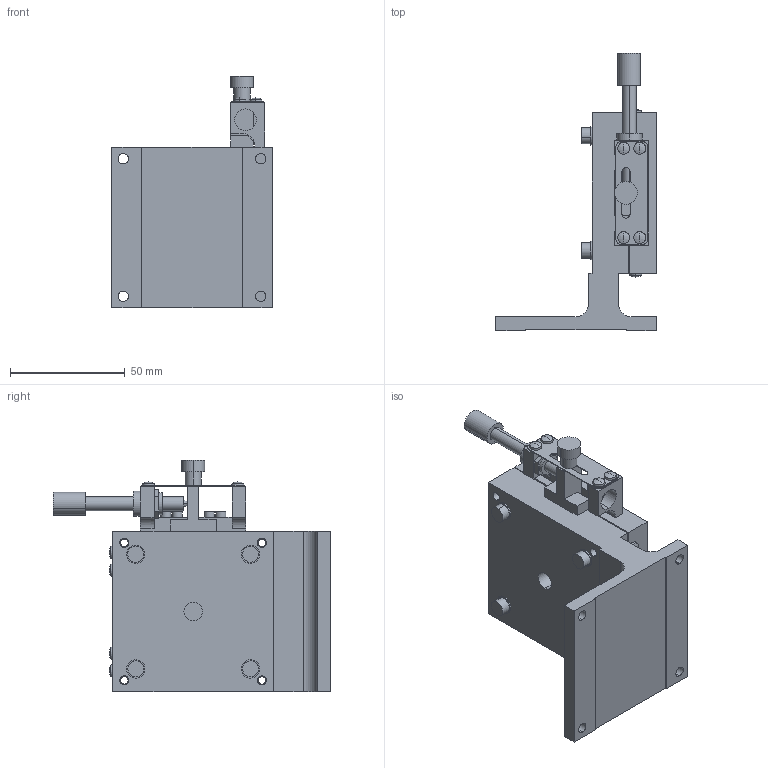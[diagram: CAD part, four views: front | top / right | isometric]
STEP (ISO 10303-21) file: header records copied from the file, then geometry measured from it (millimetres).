
FILE_DESCRIPTION (( 'STEP AP214' ), '1' );
FILE_NAME ('LZ‐7041‐SR6‐2.STEP', '2007-08-29T01:23:21', ( '' ), ( '' ), 'SwSTEP 2.0', 'SolidWorks 2006303', '' );
FILE_SCHEMA (( 'AUTOMOTIVE_DESIGN' ));
Length unit declared in the file: millimetre
Products named in the file (3): LZ70R620‐2_ﾃﾞﾌｫﾙﾄ; LZ70R620‐1_ﾃﾞﾌｫﾙﾄ; LZ‐7041‐SR6‐2
Assembly tree (2 placements, depth 2):
  LZ‐7041‐SR6‐2
    LZ70R620‐1_ﾃﾞﾌｫﾙﾄ
    LZ70R620‐2_ﾃﾞﾌｫﾙﾄ
Bounding box: 70 x 121 x 101 mm (x, y, z)
Volume: 175011.2 mm3; surface area: 57532.7 mm2
Topology: 3 solids, 7 shells, 335 faces, 801 edges, 519 vertices
Faces by surface type: plane 144, cylinder 141, sphere 26, cone 24
Entity records: 9957 total; most frequent: DIRECTION 1861, CARTESIAN_POINT 1654, ORIENTED_EDGE 1594, EDGE_CURVE 797, AXIS2_PLACEMENT_3D 724, VERTEX_POINT 517, EDGE_LOOP 420, VECTOR 413
